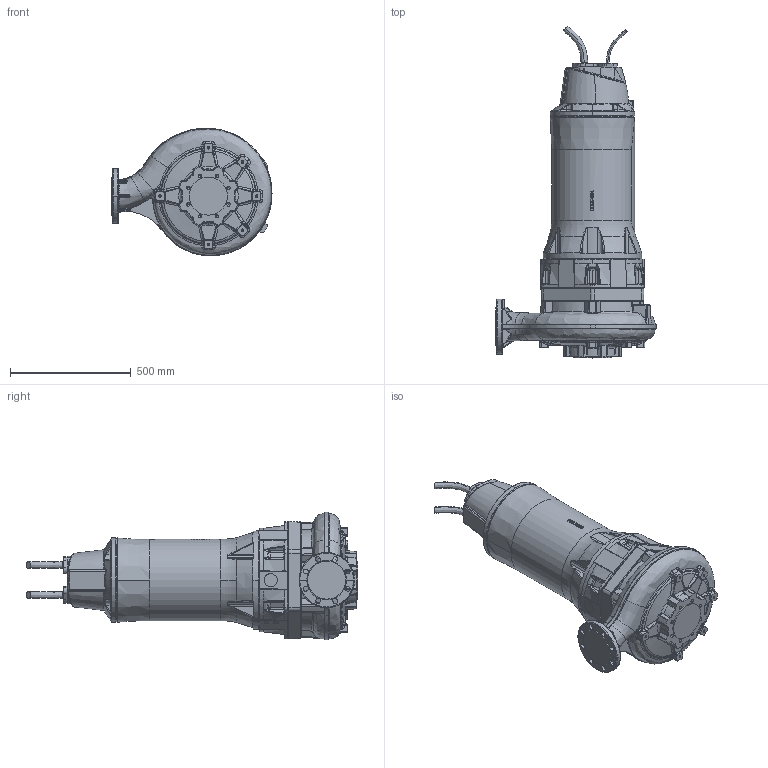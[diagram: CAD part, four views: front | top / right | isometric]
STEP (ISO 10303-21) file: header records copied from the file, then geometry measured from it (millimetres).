
FILE_DESCRIPTION (( 'STEP AP214' ), '1' );
FILE_NAME ('PE4_XFP100J-CH2_MOTOR OK_A_NG2.STEP', '2017-03-14T12:26:44', ( '' ), ( '' ), 'SwSTEP 2.0', 'SolidWorks 2017', '' );
FILE_SCHEMA (( 'AUTOMOTIVE_DESIGN' ));
Length unit declared in the file: millimetre
Products named in the file (1): PE4_XFP100J-CH2_MOTOR OK_A_NG2
Bounding box: 663.78 x 1376.58 x 529.04 mm (x, y, z)
Volume: 131517697.1 mm3; surface area: 2010927.9 mm2
Topology: 1 solids, 3 shells, 1935 faces, 4787 edges, 2844 vertices
Faces by surface type: bspline 756, cylinder 407, plane 364, cone 187, torus 153, sphere 68
Entity records: 146982 total; most frequent: CARTESIAN_POINT 86022, ORIENTED_EDGE 9454, DIRECTION 6830, EDGE_CURVE 4727, AXIS2_PLACEMENT_3D 2850, VERTEX_POINT 2844, EDGE_LOOP 2001, UNCERTAINTY_MEASURE_WITH_UNIT 1938
